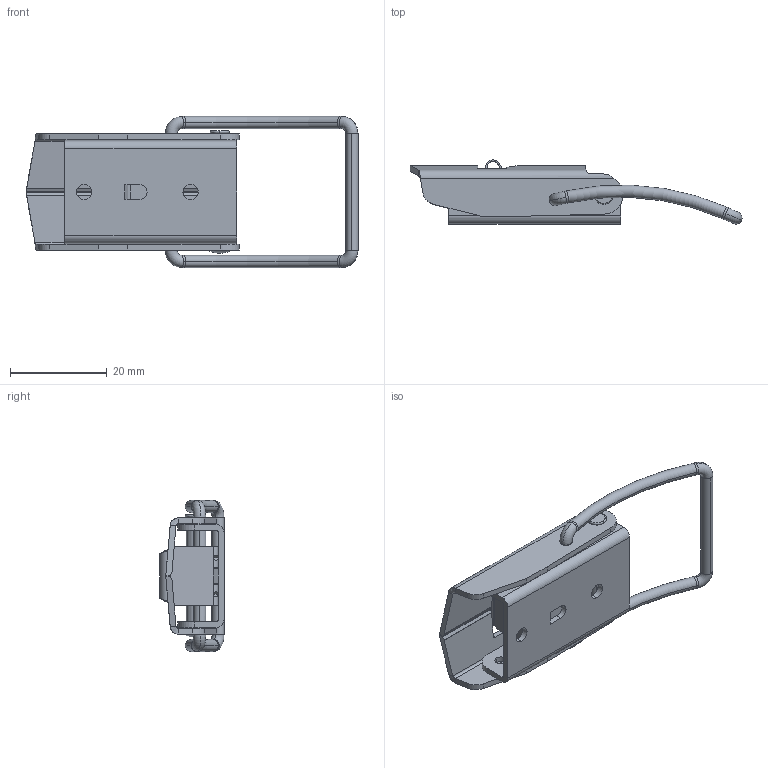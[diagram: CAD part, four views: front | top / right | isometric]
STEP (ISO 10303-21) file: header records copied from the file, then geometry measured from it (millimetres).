
FILE_DESCRIPTION (( 'STEP AP214' ), '1' );
FILE_NAME ('1429L02-2X1.STEP', '2009-09-16T08:01:09', ( '' ), ( '' ), 'SwSTEP 2.0', 'SolidWorks 2007', '' );
FILE_SCHEMA (( 'AUTOMOTIVE_DESIGN' ));
Length unit declared in the file: millimetre
Products named in the file (1): 1429L02-2X1
Bounding box: 68.56 x 13.22 x 31.2 mm (x, y, z)
Volume: 3925.4 mm3; surface area: 7694.8 mm2
Topology: 1 solids, 1 shells, 333 faces, 915 edges, 592 vertices
Faces by surface type: plane 143, cylinder 107, bspline 65, torus 16, sphere 2
Entity records: 13144 total; most frequent: CARTESIAN_POINT 5038, ORIENTED_EDGE 1824, DIRECTION 1492, EDGE_CURVE 912, VERTEX_POINT 592, VECTOR 508, LINE 508, AXIS2_PLACEMENT_3D 492
